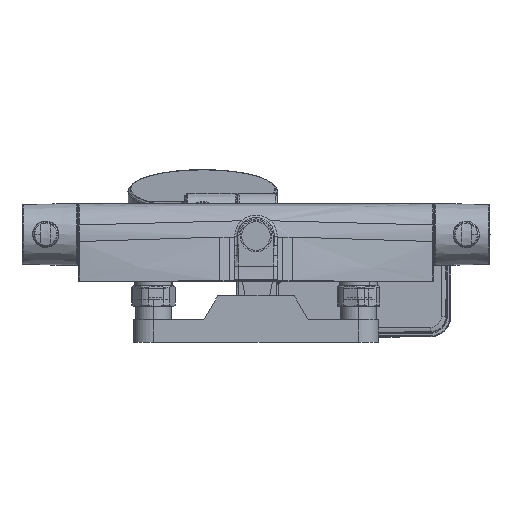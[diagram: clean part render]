
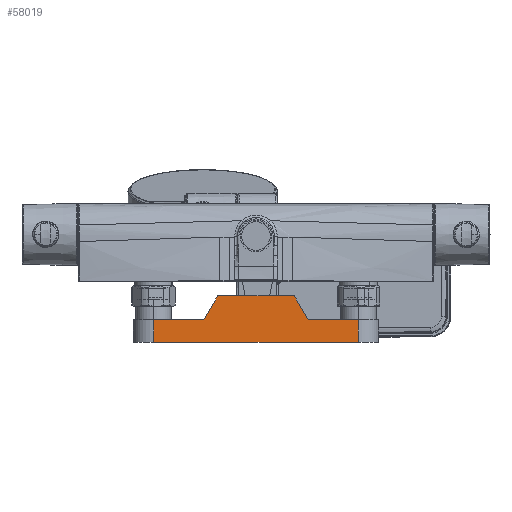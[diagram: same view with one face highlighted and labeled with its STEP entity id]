
A CAD part, front view. The second image highlights one B-rep face of the part: STEP entity #58019.
In plain terms, the highlighted planar face has unit normal (0, -1, 0).
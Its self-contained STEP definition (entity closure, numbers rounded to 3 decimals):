
#72 = LINE ( 'NONE', #34545, #54225 ) ;
#2543 = CARTESIAN_POINT ( 'NONE',  ( -75., -15., 34. ) ) ;
#3602 = EDGE_CURVE ( 'NONE', #23601, #14649, #34523, .T. ) ;
#5306 = CARTESIAN_POINT ( 'NONE',  ( 75., -15., 0. ) ) ;
#5397 = EDGE_LOOP ( 'NONE', ( #57527, #11164, #51262, #48521, #55174, #55818, #29299, #42373 ) ) ;
#6030 = VECTOR ( 'NONE', #23337, 1000. ) ;
#6453 = VECTOR ( 'NONE', #29647, 1000. ) ;
#7696 = VERTEX_POINT ( 'NONE', #42627 ) ;
#7949 = DIRECTION ( 'NONE',  ( 0., 0., 1. ) ) ;
#8338 = LINE ( 'NONE', #5306, #55510 ) ;
#9449 = VERTEX_POINT ( 'NONE', #21775 ) ;
#10609 = VECTOR ( 'NONE', #20102, 1000. ) ;
#11164 = ORIENTED_EDGE ( 'NONE', *, *, #55281, .T. ) ;
#11937 = CARTESIAN_POINT ( 'NONE',  ( 39.791, -15., 13.672 ) ) ;
#12556 = EDGE_CURVE ( 'NONE', #14649, #30317, #72, .T. ) ;
#14649 = VERTEX_POINT ( 'NONE', #26583 ) ;
#15412 = VECTOR ( 'NONE', #15679, 1000. ) ;
#15679 = DIRECTION ( 'NONE',  ( -0.5, 0., 0.866 ) ) ;
#16031 = FACE_OUTER_BOUND ( 'NONE', #5397, .T. ) ;
#18434 = VERTEX_POINT ( 'NONE', #49503 ) ;
#18891 = CARTESIAN_POINT ( 'NONE',  ( 75., -15., 16.6 ) ) ;
#20102 = DIRECTION ( 'NONE',  ( -1., 0., 0. ) ) ;
#20347 = CARTESIAN_POINT ( 'NONE',  ( 75., -15., 34. ) ) ;
#21775 = CARTESIAN_POINT ( 'NONE',  ( 75., -15., 0. ) ) ;
#22171 = CARTESIAN_POINT ( 'NONE',  ( 28.054, -15., 34. ) ) ;
#23216 = DIRECTION ( 'NONE',  ( -1., 0., 0. ) ) ;
#23337 = DIRECTION ( 'NONE',  ( -1., 0., 0. ) ) ;
#23385 = DIRECTION ( 'NONE',  ( -1., 0., 0. ) ) ;
#23601 = VERTEX_POINT ( 'NONE', #22171 ) ;
#26034 = CARTESIAN_POINT ( 'NONE',  ( 75., -15., 34. ) ) ;
#26503 = EDGE_CURVE ( 'NONE', #30317, #29907, #41296, .T. ) ;
#26583 = CARTESIAN_POINT ( 'NONE',  ( -28.054, -15., 34. ) ) ;
#29299 = ORIENTED_EDGE ( 'NONE', *, *, #43169, .F. ) ;
#29415 = VERTEX_POINT ( 'NONE', #48699 ) ;
#29620 = LINE ( 'NONE', #2543, #6453 ) ;
#29647 = DIRECTION ( 'NONE',  ( 0., 0., -1. ) ) ;
#29907 = VERTEX_POINT ( 'NONE', #35836 ) ;
#30317 = VERTEX_POINT ( 'NONE', #41663 ) ;
#32024 = LINE ( 'NONE', #40800, #6030 ) ;
#33067 = EDGE_CURVE ( 'NONE', #29415, #9449, #57516, .T. ) ;
#34523 = LINE ( 'NONE', #51346, #10609 ) ;
#34545 = CARTESIAN_POINT ( 'NONE',  ( -2.291, -15., 78.624 ) ) ;
#35836 = CARTESIAN_POINT ( 'NONE',  ( -75., -15., 16.6 ) ) ;
#38522 = VECTOR ( 'NONE', #47263, 1000. ) ;
#39867 = VECTOR ( 'NONE', #23216, 1000. ) ;
#40800 = CARTESIAN_POINT ( 'NONE',  ( 75., -15., 16.6 ) ) ;
#41296 = LINE ( 'NONE', #18891, #39867 ) ;
#41663 = CARTESIAN_POINT ( 'NONE',  ( -38.1, -15., 16.6 ) ) ;
#42373 = ORIENTED_EDGE ( 'NONE', *, *, #33067, .F. ) ;
#42627 = CARTESIAN_POINT ( 'NONE',  ( 38.1, -15., 16.6 ) ) ;
#43169 = EDGE_CURVE ( 'NONE', #9449, #18434, #8338, .T. ) ;
#45618 = LINE ( 'NONE', #11937, #15412 ) ;
#47263 = DIRECTION ( 'NONE',  ( 0., 0., -1. ) ) ;
#47924 = EDGE_CURVE ( 'NONE', #29415, #7696, #32024, .T. ) ;
#48521 = ORIENTED_EDGE ( 'NONE', *, *, #12556, .T. ) ;
#48699 = CARTESIAN_POINT ( 'NONE',  ( 75., -15., 16.6 ) ) ;
#49065 = EDGE_CURVE ( 'NONE', #29907, #18434, #29620, .T. ) ;
#49503 = CARTESIAN_POINT ( 'NONE',  ( -75., -15., 0. ) ) ;
#50626 = DIRECTION ( 'NONE',  ( -0.5, 0., -0.866 ) ) ;
#50767 = AXIS2_PLACEMENT_3D ( 'NONE', #26034, #57878, #7949 ) ;
#51262 = ORIENTED_EDGE ( 'NONE', *, *, #3602, .T. ) ;
#51346 = CARTESIAN_POINT ( 'NONE',  ( 75., -15., 34. ) ) ;
#52578 = PLANE ( 'NONE',  #50767 ) ;
#54225 = VECTOR ( 'NONE', #50626, 1000. ) ;
#55174 = ORIENTED_EDGE ( 'NONE', *, *, #26503, .T. ) ;
#55281 = EDGE_CURVE ( 'NONE', #7696, #23601, #45618, .T. ) ;
#55510 = VECTOR ( 'NONE', #23385, 1000. ) ;
#55818 = ORIENTED_EDGE ( 'NONE', *, *, #49065, .T. ) ;
#57516 = LINE ( 'NONE', #20347, #38522 ) ;
#57527 = ORIENTED_EDGE ( 'NONE', *, *, #47924, .T. ) ;
#57878 = DIRECTION ( 'NONE',  ( 0., -1., 0. ) ) ;
#58019 = ADVANCED_FACE ( 'NONE', ( #16031 ), #52578, .T. ) ;
